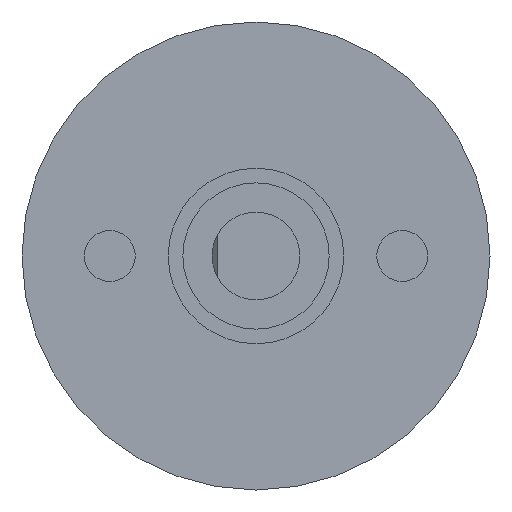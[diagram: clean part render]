
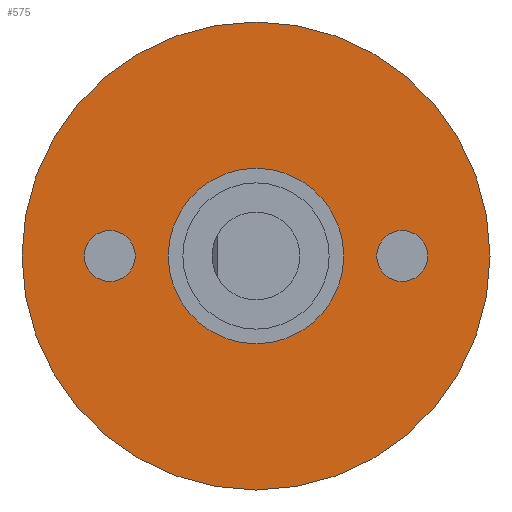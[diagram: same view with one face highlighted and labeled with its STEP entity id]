
A CAD part, left-side view. The second image highlights one B-rep face of the part: STEP entity #575.
In plain terms, the highlighted planar face has unit normal (-1, 0, 0).
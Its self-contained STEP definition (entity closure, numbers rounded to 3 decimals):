
#149=CARTESIAN_POINT('',(-20.2,0.,0.));
#150=DIRECTION('',(1.,0.,0.));
#151=DIRECTION('',(0.,1.,0.));
#152=AXIS2_PLACEMENT_3D('',#149,#150,#151);
#154=CARTESIAN_POINT('',(-20.2,0.,0.));
#155=DIRECTION('',(-1.,0.,0.));
#156=DIRECTION('',(0.,1.,0.));
#157=AXIS2_PLACEMENT_3D('',#154,#155,#156);
#159=CARTESIAN_POINT('',(-20.2,5.,0.));
#160=DIRECTION('',(1.,0.,0.));
#161=DIRECTION('',(0.,-1.,0.));
#162=AXIS2_PLACEMENT_3D('',#159,#160,#161);
#164=CARTESIAN_POINT('',(-20.2,5.,0.));
#165=DIRECTION('',(1.,0.,0.));
#166=DIRECTION('',(0.,1.,0.));
#167=AXIS2_PLACEMENT_3D('',#164,#165,#166);
#169=CARTESIAN_POINT('',(-20.2,-5.,0.));
#170=DIRECTION('',(1.,0.,0.));
#171=DIRECTION('',(0.,1.,0.));
#172=AXIS2_PLACEMENT_3D('',#169,#170,#171);
#174=CARTESIAN_POINT('',(-20.2,-5.,0.));
#175=DIRECTION('',(1.,0.,0.));
#176=DIRECTION('',(0.,-1.,0.));
#177=AXIS2_PLACEMENT_3D('',#174,#175,#176);
#179=CARTESIAN_POINT('',(-20.2,0.,0.));
#180=DIRECTION('',(-1.,0.,0.));
#181=DIRECTION('',(0.,1.,0.));
#182=AXIS2_PLACEMENT_3D('',#179,#180,#181);
#188=CARTESIAN_POINT('',(-20.2,0.,0.));
#189=DIRECTION('',(1.,0.,0.));
#190=DIRECTION('',(0.,1.,0.));
#191=AXIS2_PLACEMENT_3D('',#188,#189,#190);
#349=CARTESIAN_POINT('',(-20.2,8.,0.));
#350=VERTEX_POINT('',#349);
#351=CARTESIAN_POINT('',(-20.2,3.,0.));
#353=VERTEX_POINT('',#351);
#365=CARTESIAN_POINT('',(-20.2,-8.,0.));
#366=VERTEX_POINT('',#365);
#367=CARTESIAN_POINT('',(-20.2,-3.,0.));
#369=VERTEX_POINT('',#367);
#390=CARTESIAN_POINT('',(-20.2,4.13,0.));
#391=CARTESIAN_POINT('',(-20.2,5.87,0.));
#392=VERTEX_POINT('',#390);
#393=VERTEX_POINT('',#391);
#394=CARTESIAN_POINT('',(-20.2,-4.13,0.));
#395=CARTESIAN_POINT('',(-20.2,-5.87,0.));
#396=VERTEX_POINT('',#394);
#397=VERTEX_POINT('',#395);
#548=CARTESIAN_POINT('',(-20.2,0.,0.));
#549=DIRECTION('',(-1.,0.,0.));
#550=DIRECTION('',(0.,1.,0.));
#551=AXIS2_PLACEMENT_3D('',#548,#549,#550);
#552=PLANE('',#551);
#553=ORIENTED_EDGE('',*,*,#530,.T.);
#554=ORIENTED_EDGE('',*,*,#541,.F.);
#555=EDGE_LOOP('',(#553,#554));
#556=FACE_OUTER_BOUND('',#555,.F.);
#558=ORIENTED_EDGE('',*,*,#557,.T.);
#560=ORIENTED_EDGE('',*,*,#559,.F.);
#561=EDGE_LOOP('',(#558,#560));
#562=FACE_BOUND('',#561,.F.);
#564=ORIENTED_EDGE('',*,*,#563,.F.);
#566=ORIENTED_EDGE('',*,*,#565,.F.);
#567=EDGE_LOOP('',(#564,#566));
#568=FACE_BOUND('',#567,.F.);
#570=ORIENTED_EDGE('',*,*,#569,.F.);
#572=ORIENTED_EDGE('',*,*,#571,.F.);
#573=EDGE_LOOP('',(#570,#572));
#574=FACE_BOUND('',#573,.F.);
#575=ADVANCED_FACE('',(#556,#562,#568,#574),#552,.T.);
#153=CIRCLE('',#152,8.);
#158=CIRCLE('',#157,8.);
#163=CIRCLE('',#162,0.87);
#168=CIRCLE('',#167,0.87);
#173=CIRCLE('',#172,0.87);
#178=CIRCLE('',#177,0.87);
#183=CIRCLE('',#182,3.);
#192=CIRCLE('',#191,3.);
#530=EDGE_CURVE('',#350,#366,#153,.T.);
#541=EDGE_CURVE('',#350,#366,#158,.T.);
#557=EDGE_CURVE('',#353,#369,#183,.T.);
#559=EDGE_CURVE('',#353,#369,#192,.T.);
#563=EDGE_CURVE('',#392,#393,#163,.T.);
#565=EDGE_CURVE('',#393,#392,#168,.T.);
#569=EDGE_CURVE('',#396,#397,#173,.T.);
#571=EDGE_CURVE('',#397,#396,#178,.T.);
